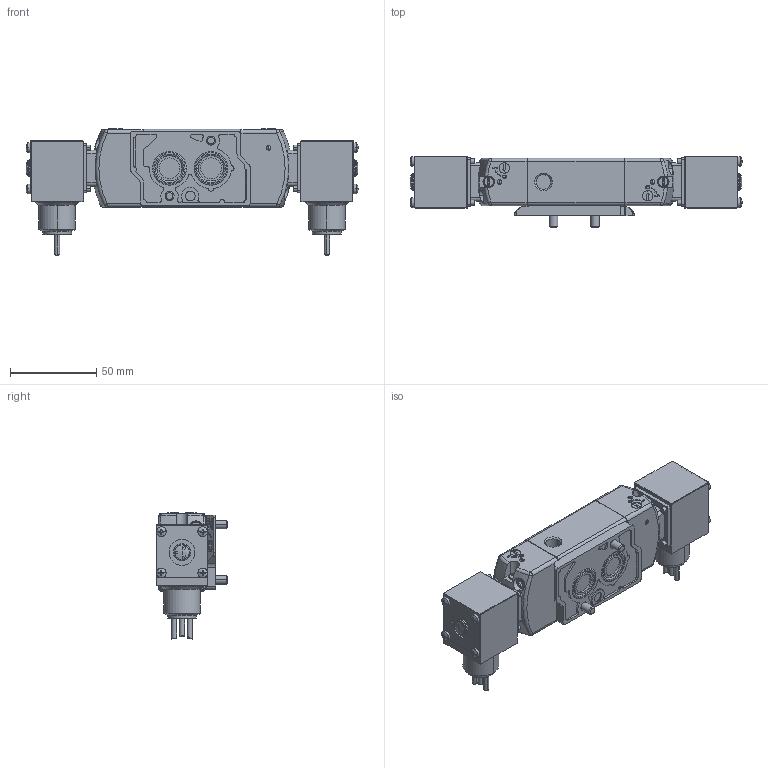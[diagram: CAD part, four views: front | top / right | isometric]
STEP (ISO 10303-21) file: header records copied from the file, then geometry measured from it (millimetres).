
FILE_DESCRIPTION (( 'STEP AP214' ), '1' );
FILE_NAME ('TVC6-X421-7N-XXX.STEP', '2025-05-08T14:53:03', ( '' ), ( '' ), 'SwSTEP 2.0', 'SolidWorks 2023', '' );
FILE_SCHEMA (( 'AUTOMOTIVE_DESIGN' ));
Length unit declared in the file: millimetre
Products named in the file (1): TVC6-X421-7N-XXX
Bounding box: 191.94 x 41.55 x 73.01 mm (x, y, z)
Volume: 228984.4 mm3; surface area: 48076.4 mm2
Topology: 3 solids, 3 shells, 1190 faces, 3057 edges, 1984 vertices
Faces by surface type: plane 694, cylinder 340, torus 54, cone 48, sphere 36, bspline 18
Entity records: 38910 total; most frequent: CARTESIAN_POINT 9418, DIRECTION 6156, ORIENTED_EDGE 6114, EDGE_CURVE 3057, AXIS2_PLACEMENT_3D 2087, VERTEX_POINT 1984, LINE 1982, VECTOR 1982
